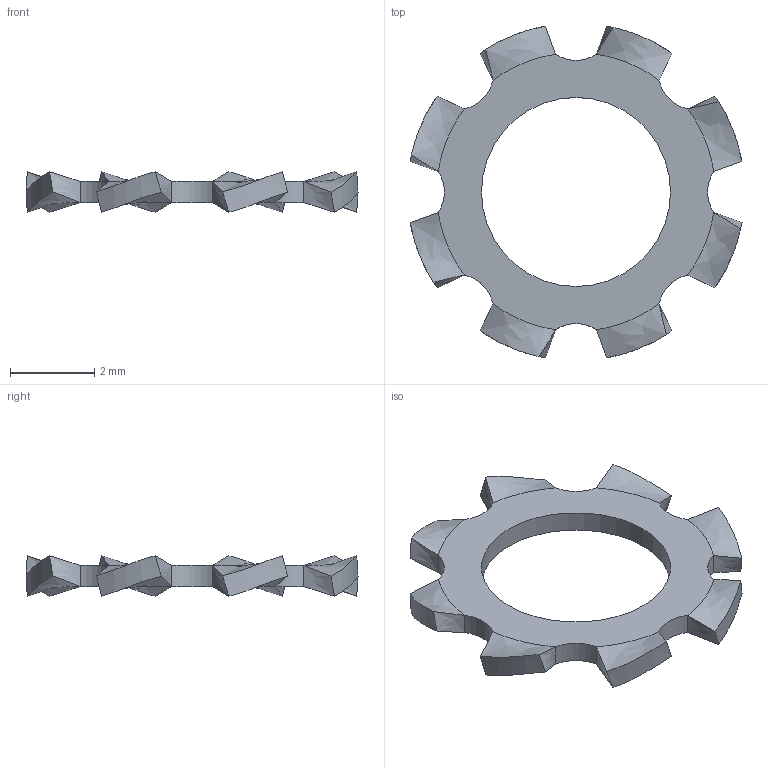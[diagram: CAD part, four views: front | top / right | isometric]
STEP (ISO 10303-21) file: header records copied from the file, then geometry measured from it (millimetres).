
FILE_DESCRIPTION(/* description */ (''),/* implementation_level */ '2;1');
FILE_NAME(/* name */ '2379-HLW-M4-A2.step',/* time_stamp */ '2023-02-14T16:47:06Z',/* author */ (''),/* organization */ (''),/* preprocessor_version */ 'ST-DEVELOPER v19.2',/* originating_system */ 'Autodesk Translation Framework v11.17.0.187',/* authorisation */ '');
FILE_SCHEMA (('AUTOMOTIVE_DESIGN { 1 0 10303 214 3 1 1 }'));
Length unit declared in the file: millimetre
Products named in the file (1): 2379-HLW-M4-A2
Bounding box: 7.87 x 7.87 x 0.96 mm (x, y, z)
Volume: 13.2 mm3; surface area: 76.7 mm2
Topology: 1 solids, 1 shells, 51 faces, 147 edges, 98 vertices
Faces by surface type: bspline 32, cylinder 17, plane 2
Full cylindrical faces by diameter (mm): 4.48 x1
Entity records: 2240 total; most frequent: CARTESIAN_POINT 1001, ORIENTED_EDGE 294, DIRECTION 189, EDGE_CURVE 147, VERTEX_POINT 98, AXIS2_PLACEMENT_3D 70, EDGE_LOOP 53, FACE_OUTER_BOUND 51
